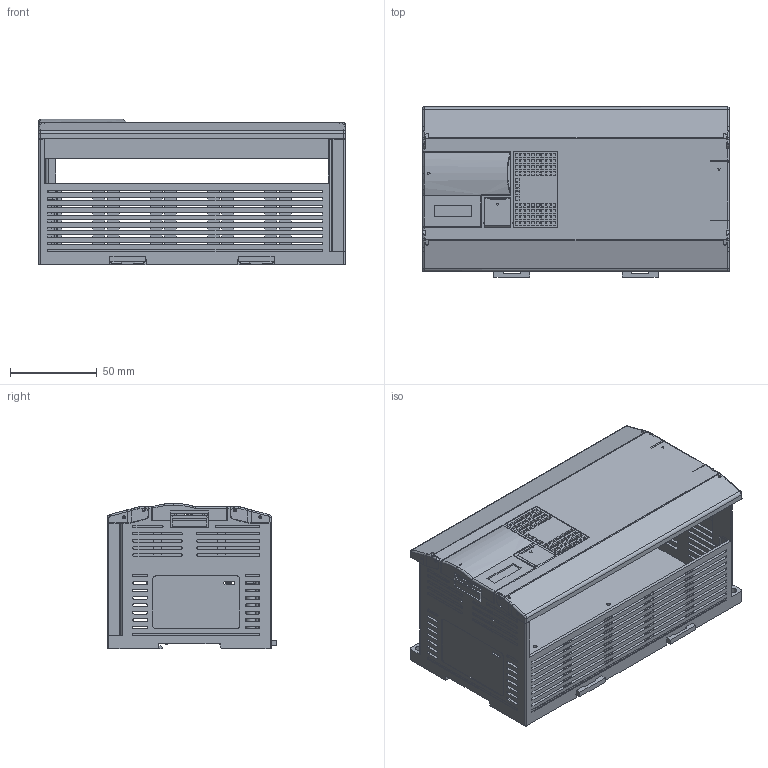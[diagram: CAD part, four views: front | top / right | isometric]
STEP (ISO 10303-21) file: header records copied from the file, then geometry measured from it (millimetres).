
FILE_DESCRIPTION (( 'STEP AP203' ), '1' );
FILE_NAME ('17公分 经典PLC扩展模块.STEP', '2023-06-10T03:04:01', ( 'h''w''s''j''s' ), ( '' ), 'SwSTEP 2.0', 'SolidWorks 2020', '' );
FILE_SCHEMA (( 'CONFIG_CONTROL_DESIGN' ));
Length unit declared in the file: millimetre
Products named in the file (1): 17公分 经典PLC扩展模块
Bounding box: 177 x 98.01 x 84.2 mm (x, y, z)
Volume: 153028.9 mm3; surface area: 170866.7 mm2
Topology: 2 solids, 2 shells, 1991 faces, 6038 edges, 3965 vertices
Faces by surface type: plane 1445, cylinder 471, bspline 50, sphere 13, cone 8, torus 4
Entity records: 69247 total; most frequent: CARTESIAN_POINT 14290, ORIENTED_EDGE 12036, DIRECTION 10553, EDGE_CURVE 6018, VECTOR 4871, LINE 4871, VERTEX_POINT 3953, AXIS2_PLACEMENT_3D 2841
